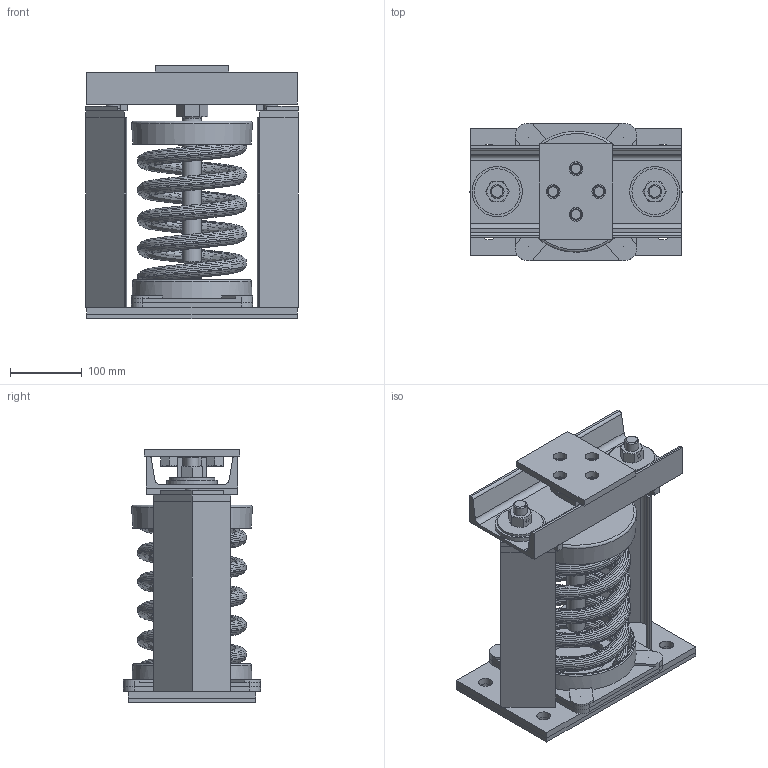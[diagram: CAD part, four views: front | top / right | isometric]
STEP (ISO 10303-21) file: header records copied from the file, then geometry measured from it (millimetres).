
FILE_DESCRIPTION(/* description */ (''),/* implementation_level */ '2;1');
FILE_NAME(/* name */ 'C:\001_Work\Designs\SLR-100 SERIES\SLR 100 SERIES (STOCK MOUNTS)\SLR 112, 113, 133-135, 154, 155\SLR-135.stp',/* time_stamp */ '2016-01-19T10:08:47-05:00',/* author */ ('rramoutar'),/* organization */ ('Mason Industries Inc.'),/* preprocessor_version */ 'ST-DEVELOPER v15.6',/* originating_system */ 'Autodesk Inventor 2015',/* authorisation */ '');
FILE_SCHEMA (('CONFIG_CONTROL_DESIGN'));
Length unit declared in the file: inch
Products named in the file (1): SLR-135 PER A-21753-7
Bounding box: 295.41 x 190.5 x 352.43 mm (x, y, z)
Volume: 2970119.3 mm3; surface area: 1175030 mm2
Topology: 32 solids, 32 shells, 550 faces, 1271 edges, 795 vertices
Faces by surface type: plane 316, cone 126, cylinder 80, bspline 22, torus 6
Full cylindrical faces by diameter (mm): 9.525 x2, 11.112 x1, 12.7 x4, 13.386 x4, 15.875 x4, 16.307 x2, 17.462 x2, 19.05 x14, 19.507 x2, 20.637 x2, 22.225 x1, 25.4 x1, 28.575 x2, 38.1 x3, 44.45 x4, 63.5 x2, 69.85 x2, 88.9 x2, 154.781 x1, 155.575 x1
Entity records: 25650 total; most frequent: CARTESIAN_POINT 13608, ORIENTED_EDGE 2302, DIRECTION 2254, EDGE_CURVE 1151, AXIS2_PLACEMENT_3D 850, VERTEX_POINT 761, EDGE_LOOP 716, STYLED_ITEM 582
